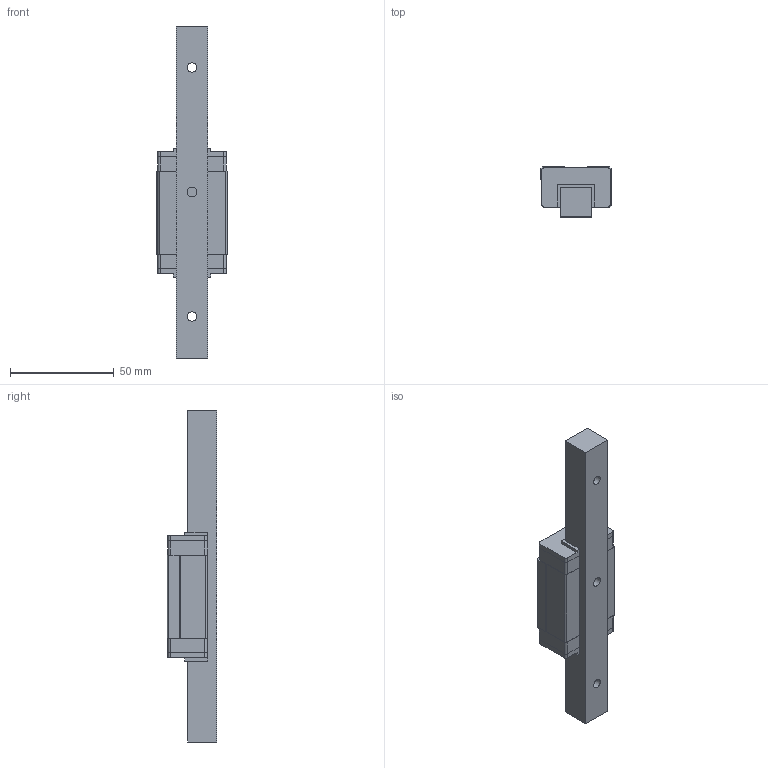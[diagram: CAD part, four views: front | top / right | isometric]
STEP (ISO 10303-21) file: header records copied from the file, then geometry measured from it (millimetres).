
FILE_DESCRIPTION((''),'2;1');
FILE_NAME('E:\PDF郪磁芞\DFS-B\DFS15B.STP','2018-01-31T12:50:36',(''),(''),'STEP Write','Mastercam V9 ... CNC Software, Inc.','');
FILE_SCHEMA(('CONFIG_CONTROL_DESIGN'));
Length unit declared in the file: millimetre
Bounding box: 34 x 24 x 160 mm (x, y, z)
Volume: 61951.4 mm3; surface area: 22981.8 mm2
Topology: 6 solids, 6 shells, 107 faces, 483 edges, 604 vertices
Faces by surface type: plane 81, cylinder 26
Full cylindrical faces by diameter (mm): 3.6 x4, 4.5 x3, 7.5 x3
Entity records: 4550 total; most frequent: CARTESIAN_POINT 1004, DIRECTION 778, ORIENTED_EDGE 508, VECTOR 362, LINE 362, EDGE_CURVE 254, TRIMMED_CURVE 209, AXIS2_PLACEMENT_3D 208
